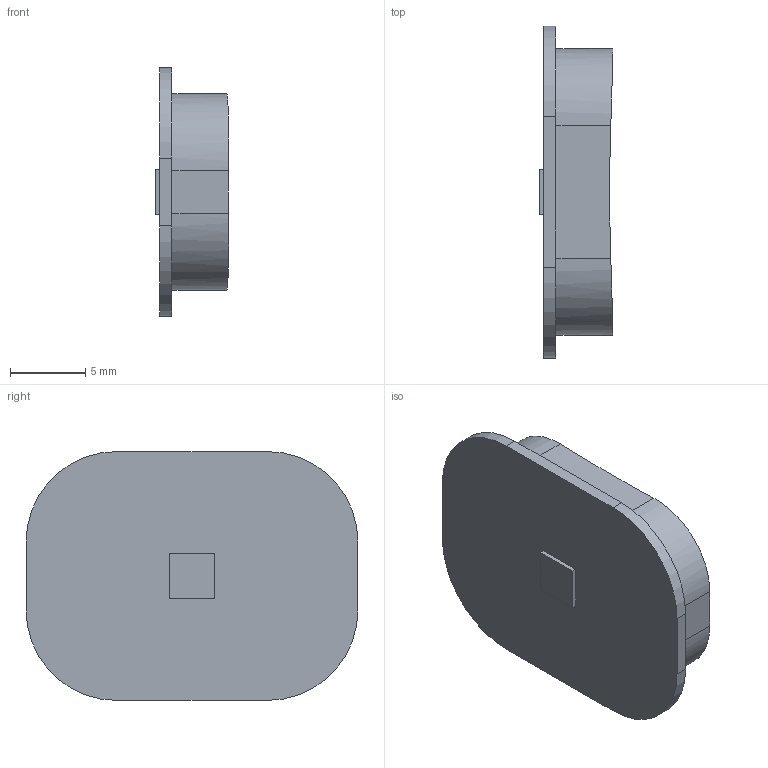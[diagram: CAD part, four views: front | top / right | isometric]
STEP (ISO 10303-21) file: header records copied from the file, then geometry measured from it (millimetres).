
FILE_DESCRIPTION(('Open CASCADE Model'),'2;1');
FILE_NAME('Open CASCADE Shape Model','2026-09-04T20:35:59',('Author'),( 'Open CASCADE'),'Open CASCADE STEP processor 7.7','Open CASCADE 7.7' ,'Unknown');
FILE_SCHEMA(('AUTOMOTIVE_DESIGN { 1 0 10303 214 1 1 1 1 }'));
Length unit declared in the file: millimetre
Products named in the file (1): Open CASCADE STEP translator 7.7 14
Bounding box: 4.86 x 22 x 16.5 mm (x, y, z)
Volume: 1065.1 mm3; surface area: 926.3 mm2
Topology: 1 solids, 1 shells, 37 faces, 99 edges, 66 vertices
Faces by surface type: plane 28, cylinder 8, sphere 1
Entity records: 3125 total; most frequent: CARTESIAN_POINT 1159, DIRECTION 360, ORIENTED_EDGE 198, LINE 198, VECTOR 198, PCURVE 198, DEFINITIONAL_REPRESENTATION 198, EDGE_CURVE 99
